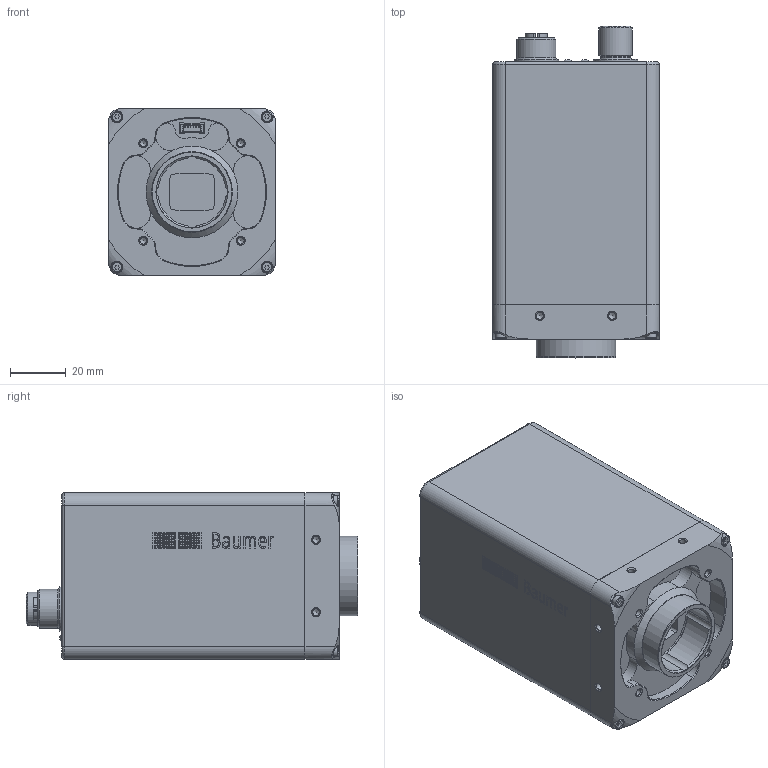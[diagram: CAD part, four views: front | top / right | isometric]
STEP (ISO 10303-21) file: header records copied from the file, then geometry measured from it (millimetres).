
FILE_DESCRIPTION( ( '11701724' ), '1' );
FILE_NAME( '11701724_VLXT-90M.I.JP.stp', '201123', ( 'uge' ), ( 'Unknown' ), 'PSStep 19.0.9', 'Unknown', ' ' );
FILE_SCHEMA( ( 'AUTOMOTIVE_DESIGN { 1 0 10303 214 1 1 1 1 }' ) );
Length unit declared in the file: millimetre
Products named in the file (1): 11096515
Bounding box: 60 x 119.33 x 60 mm (x, y, z)
Volume: 347398.8 mm3; surface area: 39933.1 mm2
Topology: 1 solids, 6 shells, 1479 faces, 3329 edges, 2183 vertices
Faces by surface type: plane 663, cylinder 600, torus 71, cone 66, extrusion 56, sphere 16, bspline 7
Full cylindrical faces by diameter (mm): 0.306 x20, 0.385 x20, 0.464 x20, 0.542 x20, 0.621 x20, 0.63 x12, 0.699 x20, 0.7 x8, 0.778 x20, 0.856 x20, 1.24 x8, 2 x4, 2.4 x4, 2.459 x28, 2.8 x2, 2.92 x2, 3.4 x2, 3.8 x4, 4.975 x2, 8 x2, 8.25 x1, 8.3 x1, 9.3 x2, 9.4 x2, 10.75 x1, 11.7 x1, 12 x3, 14 x1, 16 x2, 25.7 x1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
Entity records: 56204 total; most frequent: CARTESIAN_POINT 12330, DIRECTION 6881, ORIENTED_EDGE 5736, EDGE_CURVE 2868, AXIS2_PLACEMENT_3D 2761, EDGE_LOOP 2183, VERTEX_POINT 2102, FACE_OUTER_BOUND 1778
